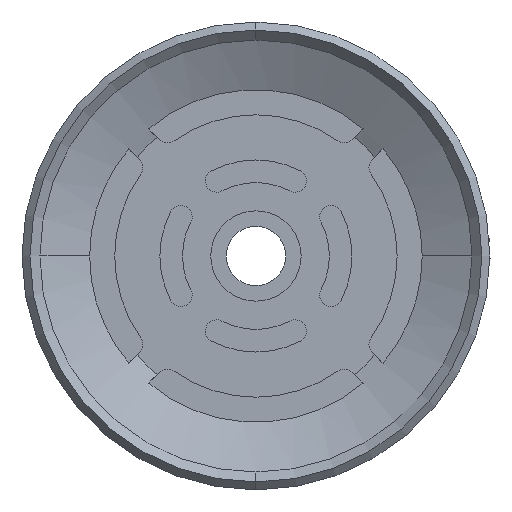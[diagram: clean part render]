
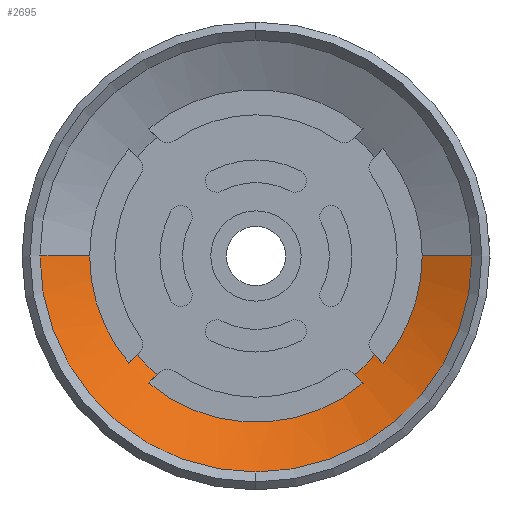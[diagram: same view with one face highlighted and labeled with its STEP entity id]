
A CAD part, front view. The second image highlights one B-rep face of the part: STEP entity #2695.
In plain terms, the highlighted conical face has half-angle 64.272 degrees and reference radius 27.355 mm.
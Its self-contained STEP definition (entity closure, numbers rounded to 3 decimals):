
#3 = VERTEX_POINT ( 'NONE', #1534 ) ;
#32 = B_SPLINE_CURVE_WITH_KNOTS ( 'NONE', 3,
 ( #44, #1134, #901, #467 ),
 .UNSPECIFIED., .F., .F.,
 ( 4, 4 ),
 ( 0., 0.002 ),
 .UNSPECIFIED. ) ;
#44 = CARTESIAN_POINT ( 'NONE',  ( -21.03, -13.2, -17.494 ) ) ;
#56 = ORIENTED_EDGE ( 'NONE', *, *, #59, .T. ) ;
#59 = EDGE_CURVE ( 'NONE', #2468, #1375, #2778, .T. ) ;
#105 = CARTESIAN_POINT ( 'NONE',  ( 21.03, -13.2, -17.494 ) ) ;
#187 = ORIENTED_EDGE ( 'NONE', *, *, #1817, .F. ) ;
#200 = DIRECTION ( 'NONE',  ( 0., 1., 0. ) ) ;
#211 = CARTESIAN_POINT ( 'NONE',  ( 18.476, -13.867, -22.012 ) ) ;
#214 = EDGE_CURVE ( 'NONE', #3, #1492, #1849, .T. ) ;
#243 = VERTEX_POINT ( 'NONE', #2834 ) ;
#250 = FACE_OUTER_BOUND ( 'NONE', #1236, .T. ) ;
#318 = CARTESIAN_POINT ( 'NONE',  ( 22.012, -13.867, -18.476 ) ) ;
#324 = CARTESIAN_POINT ( 'NONE',  ( -21.03, -13.2, -17.494 ) ) ;
#360 = ORIENTED_EDGE ( 'NONE', *, *, #214, .T. ) ;
#362 = VERTEX_POINT ( 'NONE', #528 ) ;
#363 = CARTESIAN_POINT ( 'NONE',  ( -18.476, -13.867, -22.012 ) ) ;
#377 = DIRECTION ( 'NONE',  ( 0., 0., -1. ) ) ;
#438 = EDGE_CURVE ( 'NONE', #1492, #1287, #907, .T. ) ;
#443 = DIRECTION ( 'NONE',  ( 0., 1., 0. ) ) ;
#455 = DIRECTION ( 'NONE',  ( 1., 0., 0. ) ) ;
#467 = CARTESIAN_POINT ( 'NONE',  ( -22.503, -14.2, -18.967 ) ) ;
#528 = CARTESIAN_POINT ( 'NONE',  ( -38.25, -18.45, 0. ) ) ;
#530 = CARTESIAN_POINT ( 'NONE',  ( 0., -13.2, 0. ) ) ;
#546 = EDGE_CURVE ( 'NONE', #2370, #2468, #1946, .T. ) ;
#548 = CARTESIAN_POINT ( 'NONE',  ( 38.25, -18.45, 0. ) ) ;
#551 = CARTESIAN_POINT ( 'NONE',  ( 21.03, -13.2, -17.494 ) ) ;
#570 = ORIENTED_EDGE ( 'NONE', *, *, #2056, .T. ) ;
#588 = CARTESIAN_POINT ( 'NONE',  ( -18.967, -14.2, -22.503 ) ) ;
#610 = ORIENTED_EDGE ( 'NONE', *, *, #546, .T. ) ;
#802 = ORIENTED_EDGE ( 'NONE', *, *, #2911, .F. ) ;
#862 = AXIS2_PLACEMENT_3D ( 'NONE', #2678, #443, #455 ) ;
#901 = CARTESIAN_POINT ( 'NONE',  ( -22.012, -13.867, -18.476 ) ) ;
#904 = EDGE_CURVE ( 'NONE', #243, #362, #2453, .T. ) ;
#907 = CIRCLE ( 'NONE', #2561, 27.355 ) ;
#941 = DIRECTION ( 'NONE',  ( 1., 0., 0. ) ) ;
#956 = AXIS2_PLACEMENT_3D ( 'NONE', #2592, #2161, #377 ) ;
#957 = LINE ( 'NONE', #1860, #1278 ) ;
#1012 = DIRECTION ( 'NONE',  ( 0., 1., 0. ) ) ;
#1021 = CARTESIAN_POINT ( 'NONE',  ( -17.985, -13.533, -21.521 ) ) ;
#1029 = CARTESIAN_POINT ( 'NONE',  ( 18.967, -14.2, -22.503 ) ) ;
#1099 = AXIS2_PLACEMENT_3D ( 'NONE', #1863, #1356, #1139 ) ;
#1134 = CARTESIAN_POINT ( 'NONE',  ( -21.521, -13.533, -17.985 ) ) ;
#1136 = AXIS2_PLACEMENT_3D ( 'NONE', #530, #2300, #1152 ) ;
#1139 = DIRECTION ( 'NONE',  ( 1., 0., 0. ) ) ;
#1152 = DIRECTION ( 'NONE',  ( 1., 0., 0. ) ) ;
#1210 = B_SPLINE_CURVE_WITH_KNOTS ( 'NONE', 3,
 ( #2563, #318, #2345, #105 ),
 .UNSPECIFIED., .F., .F.,
 ( 4, 4 ),
 ( 0., 0.002 ),
 .UNSPECIFIED. ) ;
#1218 = EDGE_CURVE ( 'NONE', #1638, #1320, #1324, .T. ) ;
#1231 = CARTESIAN_POINT ( 'NONE',  ( 22.503, -14.2, -18.967 ) ) ;
#1236 = EDGE_LOOP ( 'NONE', ( #1677, #2430, #187, #802, #1438, #2123, #1488, #610, #56, #1457, #360, #2109, #570 ) ) ;
#1242 = CARTESIAN_POINT ( 'NONE',  ( 0., -18.45, 0. ) ) ;
#1278 = VECTOR ( 'NONE', #1412, 1000. ) ;
#1287 = VERTEX_POINT ( 'NONE', #324 ) ;
#1320 = VERTEX_POINT ( 'NONE', #1231 ) ;
#1324 = CIRCLE ( 'NONE', #2032, 29.43 ) ;
#1356 = DIRECTION ( 'NONE',  ( 0., 1., 0. ) ) ;
#1369 = CARTESIAN_POINT ( 'NONE',  ( 29.43, -14.2, 0. ) ) ;
#1375 = VERTEX_POINT ( 'NONE', #1029 ) ;
#1391 = VERTEX_POINT ( 'NONE', #548 ) ;
#1411 = CIRCLE ( 'NONE', #1099, 29.43 ) ;
#1412 = DIRECTION ( 'NONE',  ( 0.901, -0.434, 0. ) ) ;
#1438 = ORIENTED_EDGE ( 'NONE', *, *, #1556, .F. ) ;
#1457 = ORIENTED_EDGE ( 'NONE', *, *, #2671, .T. ) ;
#1458 = AXIS2_PLACEMENT_3D ( 'NONE', #1242, #1709, #1692 ) ;
#1461 = CARTESIAN_POINT ( 'NONE',  ( 0., -18.45, -38.25 ) ) ;
#1488 = ORIENTED_EDGE ( 'NONE', *, *, #1728, .T. ) ;
#1492 = VERTEX_POINT ( 'NONE', #2243 ) ;
#1519 = EDGE_CURVE ( 'NONE', #2842, #243, #1645, .T. ) ;
#1534 = CARTESIAN_POINT ( 'NONE',  ( -18.967, -14.2, -22.503 ) ) ;
#1556 = EDGE_CURVE ( 'NONE', #1638, #1391, #957, .T. ) ;
#1568 = VECTOR ( 'NONE', #2019, 1000. ) ;
#1570 = CARTESIAN_POINT ( 'NONE',  ( 0., -13.2, 0. ) ) ;
#1638 = VERTEX_POINT ( 'NONE', #1369 ) ;
#1645 = CIRCLE ( 'NONE', #862, 29.43 ) ;
#1677 = ORIENTED_EDGE ( 'NONE', *, *, #1519, .T. ) ;
#1681 = DIRECTION ( 'NONE',  ( 1., 0., 0. ) ) ;
#1692 = DIRECTION ( 'NONE',  ( 0., 0., -1. ) ) ;
#1709 = DIRECTION ( 'NONE',  ( 0., 1., 0. ) ) ;
#1728 = EDGE_CURVE ( 'NONE', #1320, #2370, #1210, .T. ) ;
#1745 = CIRCLE ( 'NONE', #1458, 38.25 ) ;
#1756 = CARTESIAN_POINT ( 'NONE',  ( 17.494, -13.2, -21.03 ) ) ;
#1781 = VERTEX_POINT ( 'NONE', #1461 ) ;
#1817 = EDGE_CURVE ( 'NONE', #1781, #362, #1745, .T. ) ;
#1849 = B_SPLINE_CURVE_WITH_KNOTS ( 'NONE', 3,
 ( #588, #363, #1021, #2163 ),
 .UNSPECIFIED., .F., .F.,
 ( 4, 4 ),
 ( 0., 0.002 ),
 .UNSPECIFIED. ) ;
#1860 = CARTESIAN_POINT ( 'NONE',  ( 27.355, -13.2, 0. ) ) ;
#1863 = CARTESIAN_POINT ( 'NONE',  ( 0., -14.2, 0. ) ) ;
#1905 = CIRCLE ( 'NONE', #956, 38.25 ) ;
#1910 = CARTESIAN_POINT ( 'NONE',  ( 0., -14.2, 0. ) ) ;
#1946 = CIRCLE ( 'NONE', #2084, 27.355 ) ;
#1972 = CARTESIAN_POINT ( 'NONE',  ( 0., -13.2, 0. ) ) ;
#2019 = DIRECTION ( 'NONE',  ( -0.901, -0.434, 0. ) ) ;
#2032 = AXIS2_PLACEMENT_3D ( 'NONE', #1910, #1012, #1681 ) ;
#2056 = EDGE_CURVE ( 'NONE', #1287, #2842, #32, .T. ) ;
#2084 = AXIS2_PLACEMENT_3D ( 'NONE', #1570, #2486, #941 ) ;
#2109 = ORIENTED_EDGE ( 'NONE', *, *, #438, .T. ) ;
#2123 = ORIENTED_EDGE ( 'NONE', *, *, #1218, .T. ) ;
#2161 = DIRECTION ( 'NONE',  ( 0., 1., 0. ) ) ;
#2163 = CARTESIAN_POINT ( 'NONE',  ( -17.494, -13.2, -21.03 ) ) ;
#2227 = DIRECTION ( 'NONE',  ( 1., 0., 0. ) ) ;
#2243 = CARTESIAN_POINT ( 'NONE',  ( -17.494, -13.2, -21.03 ) ) ;
#2300 = DIRECTION ( 'NONE',  ( 0., -1., 0. ) ) ;
#2345 = CARTESIAN_POINT ( 'NONE',  ( 21.521, -13.533, -17.985 ) ) ;
#2370 = VERTEX_POINT ( 'NONE', #551 ) ;
#2430 = ORIENTED_EDGE ( 'NONE', *, *, #904, .T. ) ;
#2438 = CARTESIAN_POINT ( 'NONE',  ( 17.494, -13.2, -21.03 ) ) ;
#2453 = LINE ( 'NONE', #2886, #1568 ) ;
#2458 = CARTESIAN_POINT ( 'NONE',  ( 17.985, -13.533, -21.521 ) ) ;
#2468 = VERTEX_POINT ( 'NONE', #2438 ) ;
#2486 = DIRECTION ( 'NONE',  ( 0., 1., 0. ) ) ;
#2512 = CONICAL_SURFACE ( 'NONE', #1136, 27.355, 1.122 ) ;
#2561 = AXIS2_PLACEMENT_3D ( 'NONE', #1972, #200, #2227 ) ;
#2563 = CARTESIAN_POINT ( 'NONE',  ( 22.503, -14.2, -18.967 ) ) ;
#2592 = CARTESIAN_POINT ( 'NONE',  ( 0., -18.45, 0. ) ) ;
#2632 = CARTESIAN_POINT ( 'NONE',  ( -22.503, -14.2, -18.967 ) ) ;
#2671 = EDGE_CURVE ( 'NONE', #1375, #3, #1411, .T. ) ;
#2673 = CARTESIAN_POINT ( 'NONE',  ( 18.967, -14.2, -22.503 ) ) ;
#2678 = CARTESIAN_POINT ( 'NONE',  ( 0., -14.2, 0. ) ) ;
#2695 = ADVANCED_FACE ( 'NONE', ( #250 ), #2512, .F. ) ;
#2778 = B_SPLINE_CURVE_WITH_KNOTS ( 'NONE', 3,
 ( #1756, #2458, #211, #2673 ),
 .UNSPECIFIED., .F., .F.,
 ( 4, 4 ),
 ( 0., 0.002 ),
 .UNSPECIFIED. ) ;
#2834 = CARTESIAN_POINT ( 'NONE',  ( -29.43, -14.2, 0. ) ) ;
#2842 = VERTEX_POINT ( 'NONE', #2632 ) ;
#2886 = CARTESIAN_POINT ( 'NONE',  ( -27.355, -13.2, 0. ) ) ;
#2911 = EDGE_CURVE ( 'NONE', #1391, #1781, #1905, .T. ) ;
